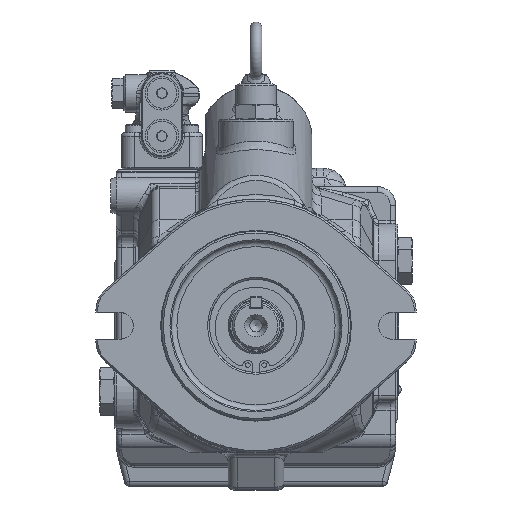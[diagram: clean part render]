
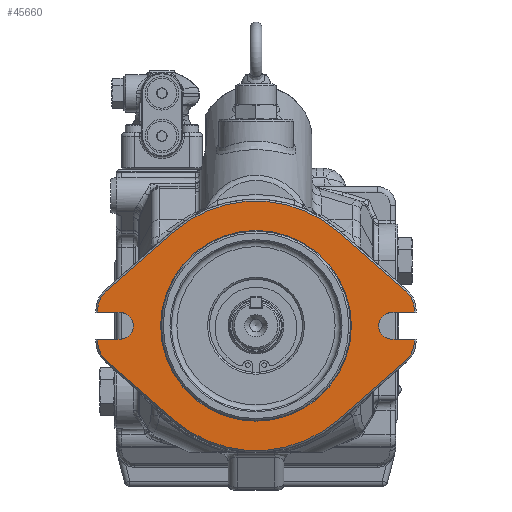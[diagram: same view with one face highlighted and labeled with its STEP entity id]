
A CAD part, top view. The second image highlights one B-rep face of the part: STEP entity #45660.
In plain terms, the highlighted planar face has unit normal (0, 0, 1).
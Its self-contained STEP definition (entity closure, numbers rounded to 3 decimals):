
#4699=FACE_BOUND('',#10778,.T.);
#5748=PLANE('',#49441);
#7954=FACE_OUTER_BOUND('',#10777,.T.);
#10777=EDGE_LOOP('',(#40343,#40344,#40345,#40346,#40347,#40348,#40349,#40350,
#40351,#40352,#40353,#40354,#40355,#40356,#40357,#40358,#40359,#40360,#40361,
#40362));
#10778=EDGE_LOOP('',(#40363));
#14214=LINE('',#86241,#17577);
#14232=LINE('',#86300,#17595);
#14245=LINE('',#86331,#17608);
#14249=LINE('',#86339,#17612);
#14253=LINE('',#86354,#17616);
#14268=LINE('',#86383,#17631);
#14269=LINE('',#86386,#17632);
#14287=LINE('',#86761,#17650);
#14288=LINE('',#86765,#17651);
#14289=LINE('',#86769,#17652);
#14290=LINE('',#86774,#17653);
#14291=LINE('',#86778,#17654);
#17577=VECTOR('',#59291,10.);
#17595=VECTOR('',#59345,10.);
#17608=VECTOR('',#59374,10.);
#17612=VECTOR('',#59380,10.);
#17616=VECTOR('',#59394,10.);
#17631=VECTOR('',#59423,10.);
#17632=VECTOR('',#59426,10.);
#17650=VECTOR('',#59524,10.);
#17651=VECTOR('',#59527,10.);
#17652=VECTOR('',#59530,10.);
#17653=VECTOR('',#59535,10.);
#17654=VECTOR('',#59538,10.);
#19402=CIRCLE('',#49363,7.15);
#19409=CIRCLE('',#49381,7.15);
#19429=CIRCLE('',#49439,51.2);
#19431=CIRCLE('',#49442,14.);
#19432=CIRCLE('',#49443,67.);
#19433=CIRCLE('',#49444,14.);
#19434=CIRCLE('',#49445,14.);
#19435=CIRCLE('',#49446,67.);
#19436=CIRCLE('',#49447,14.);
#22961=VERTEX_POINT('',#86238);
#22962=VERTEX_POINT('',#86240);
#22964=VERTEX_POINT('',#86246);
#22984=VERTEX_POINT('',#86297);
#22985=VERTEX_POINT('',#86299);
#22987=VERTEX_POINT('',#86305);
#22995=VERTEX_POINT('',#86329);
#22998=VERTEX_POINT('',#86337);
#23004=VERTEX_POINT('',#86353);
#23011=VERTEX_POINT('',#86381);
#23012=VERTEX_POINT('',#86385);
#23073=VERTEX_POINT('',#86756);
#23074=VERTEX_POINT('',#86760);
#23075=VERTEX_POINT('',#86762);
#23076=VERTEX_POINT('',#86764);
#23077=VERTEX_POINT('',#86766);
#23078=VERTEX_POINT('',#86768);
#23079=VERTEX_POINT('',#86771);
#23080=VERTEX_POINT('',#86773);
#23081=VERTEX_POINT('',#86775);
#23082=VERTEX_POINT('',#86777);
#28793=EDGE_CURVE('',#22962,#22961,#14214,.T.);
#28797=EDGE_CURVE('',#22961,#22964,#19402,.T.);
#28822=EDGE_CURVE('',#22985,#22984,#14232,.T.);
#28826=EDGE_CURVE('',#22984,#22987,#19409,.T.);
#28838=EDGE_CURVE('',#22987,#22995,#14245,.T.);
#28842=EDGE_CURVE('',#22964,#22998,#14249,.T.);
#28849=EDGE_CURVE('',#22985,#23004,#14253,.T.);
#28864=EDGE_CURVE('',#23011,#22998,#14268,.T.);
#28865=EDGE_CURVE('',#22962,#23012,#14269,.T.);
#28937=EDGE_CURVE('',#23073,#23073,#19429,.T.);
#28939=EDGE_CURVE('',#23074,#22995,#14287,.T.);
#28940=EDGE_CURVE('',#23075,#23074,#19431,.T.);
#28941=EDGE_CURVE('',#23076,#23075,#14288,.T.);
#28942=EDGE_CURVE('',#23077,#23076,#19432,.T.);
#28943=EDGE_CURVE('',#23078,#23077,#14289,.T.);
#28944=EDGE_CURVE('',#23012,#23078,#19433,.T.);
#28945=EDGE_CURVE('',#23079,#23011,#19434,.T.);
#28946=EDGE_CURVE('',#23080,#23079,#14290,.T.);
#28947=EDGE_CURVE('',#23081,#23080,#19435,.T.);
#28948=EDGE_CURVE('',#23082,#23081,#14291,.T.);
#28949=EDGE_CURVE('',#23004,#23082,#19436,.T.);
#40343=ORIENTED_EDGE('',*,*,#28838,.T.);
#40344=ORIENTED_EDGE('',*,*,#28939,.F.);
#40345=ORIENTED_EDGE('',*,*,#28940,.F.);
#40346=ORIENTED_EDGE('',*,*,#28941,.F.);
#40347=ORIENTED_EDGE('',*,*,#28942,.F.);
#40348=ORIENTED_EDGE('',*,*,#28943,.F.);
#40349=ORIENTED_EDGE('',*,*,#28944,.F.);
#40350=ORIENTED_EDGE('',*,*,#28865,.F.);
#40351=ORIENTED_EDGE('',*,*,#28793,.T.);
#40352=ORIENTED_EDGE('',*,*,#28797,.T.);
#40353=ORIENTED_EDGE('',*,*,#28842,.T.);
#40354=ORIENTED_EDGE('',*,*,#28864,.F.);
#40355=ORIENTED_EDGE('',*,*,#28945,.F.);
#40356=ORIENTED_EDGE('',*,*,#28946,.F.);
#40357=ORIENTED_EDGE('',*,*,#28947,.F.);
#40358=ORIENTED_EDGE('',*,*,#28948,.F.);
#40359=ORIENTED_EDGE('',*,*,#28949,.F.);
#40360=ORIENTED_EDGE('',*,*,#28849,.F.);
#40361=ORIENTED_EDGE('',*,*,#28822,.T.);
#40362=ORIENTED_EDGE('',*,*,#28826,.T.);
#40363=ORIENTED_EDGE('',*,*,#28937,.F.);
#45660=ADVANCED_FACE('',(#7954,#4699),#5748,.F.);
#49363=AXIS2_PLACEMENT_3D('',#86248,#59297,#59298);
#49381=AXIS2_PLACEMENT_3D('',#86307,#59351,#59352);
#49439=AXIS2_PLACEMENT_3D('',#86757,#59518,#59519);
#49441=AXIS2_PLACEMENT_3D('',#86759,#59522,#59523);
#49442=AXIS2_PLACEMENT_3D('',#86763,#59525,#59526);
#49443=AXIS2_PLACEMENT_3D('',#86767,#59528,#59529);
#49444=AXIS2_PLACEMENT_3D('',#86770,#59531,#59532);
#49445=AXIS2_PLACEMENT_3D('',#86772,#59533,#59534);
#49446=AXIS2_PLACEMENT_3D('',#86776,#59536,#59537);
#49447=AXIS2_PLACEMENT_3D('',#86779,#59539,#59540);
#59291=DIRECTION('',(1.,0.,0.));
#59297=DIRECTION('center_axis',(0.,0.,-1.));
#59298=DIRECTION('ref_axis',(0.,-1.,0.));
#59345=DIRECTION('',(-1.,0.,0.));
#59351=DIRECTION('center_axis',(0.,0.,-1.));
#59352=DIRECTION('ref_axis',(0.,1.,0.));
#59374=DIRECTION('',(1.,0.,0.));
#59380=DIRECTION('',(-1.,0.,0.));
#59394=DIRECTION('',(0.,-1.,0.));
#59423=DIRECTION('',(0.,1.,0.));
#59426=DIRECTION('',(0.,1.,0.));
#59518=DIRECTION('center_axis',(0.,0.,1.));
#59519=DIRECTION('ref_axis',(0.,-1.,0.));
#59522=DIRECTION('center_axis',(0.,0.,-1.));
#59523=DIRECTION('ref_axis',(0.,1.,0.));
#59524=DIRECTION('',(0.,-1.,0.));
#59525=DIRECTION('center_axis',(0.,0.,-1.));
#59526=DIRECTION('ref_axis',(0.911,0.413,0.));
#59527=DIRECTION('',(0.752,-0.66,0.));
#59528=DIRECTION('center_axis',(0.,0.,-1.));
#59529=DIRECTION('ref_axis',(0.,1.,0.));
#59530=DIRECTION('',(0.752,0.66,0.));
#59531=DIRECTION('center_axis',(0.,0.,-1.));
#59532=DIRECTION('ref_axis',(-0.911,0.413,0.));
#59533=DIRECTION('center_axis',(0.,0.,-1.));
#59534=DIRECTION('ref_axis',(-0.911,-0.413,0.));
#59535=DIRECTION('',(-0.752,0.66,0.));
#59536=DIRECTION('center_axis',(0.,0.,-1.));
#59537=DIRECTION('ref_axis',(0.,-1.,0.));
#59538=DIRECTION('',(-0.752,-0.66,0.));
#59539=DIRECTION('center_axis',(0.,0.,-1.));
#59540=DIRECTION('ref_axis',(0.911,-0.413,0.));
#86238=CARTESIAN_POINT('',(-70.023,-25.002,103.606));
#86240=CARTESIAN_POINT('',(-82.023,-25.002,103.606));
#86241=CARTESIAN_POINT('',(-33.523,-25.002,103.606));
#86246=CARTESIAN_POINT('',(-70.023,-39.302,103.606));
#86248=CARTESIAN_POINT('Origin',(-70.023,-32.152,103.606));
#86297=CARTESIAN_POINT('',(75.977,-39.302,103.606));
#86299=CARTESIAN_POINT('',(87.977,-39.302,103.606));
#86300=CARTESIAN_POINT('',(39.477,-39.302,103.606));
#86305=CARTESIAN_POINT('',(75.977,-25.002,103.606));
#86307=CARTESIAN_POINT('Origin',(75.977,-32.152,103.606));
#86329=CARTESIAN_POINT('',(87.977,-25.002,103.606));
#86331=CARTESIAN_POINT('',(62.675,-25.002,103.606));
#86337=CARTESIAN_POINT('',(-82.023,-39.302,103.606));
#86339=CARTESIAN_POINT('',(-48.826,-39.302,103.606));
#86353=CARTESIAN_POINT('',(87.977,-40.359,103.606));
#86354=CARTESIAN_POINT('',(87.977,24.639,103.606));
#86381=CARTESIAN_POINT('',(-82.023,-40.359,103.606));
#86383=CARTESIAN_POINT('',(-82.023,32.139,103.606));
#86385=CARTESIAN_POINT('',(-82.023,-23.946,103.606));
#86386=CARTESIAN_POINT('',(-82.023,32.139,103.606));
#86756=CARTESIAN_POINT('',(2.977,19.048,103.606));
#86757=CARTESIAN_POINT('Origin',(2.977,-32.152,103.606));
#86759=CARTESIAN_POINT('Origin',(2.977,58.429,103.606));
#86760=CARTESIAN_POINT('',(87.977,-23.946,103.606));
#86761=CARTESIAN_POINT('',(87.977,24.639,103.606));
#86762=CARTESIAN_POINT('',(83.211,-13.423,103.606));
#86763=CARTESIAN_POINT('Origin',(73.977,-23.946,103.606));
#86764=CARTESIAN_POINT('',(47.17,18.206,103.606));
#86765=CARTESIAN_POINT('',(27.443,35.518,103.606));
#86766=CARTESIAN_POINT('',(-41.217,18.206,103.606));
#86767=CARTESIAN_POINT('Origin',(2.977,-32.152,103.606));
#86768=CARTESIAN_POINT('',(-77.258,-13.423,103.606));
#86769=CARTESIAN_POINT('',(-11.203,44.546,103.606));
#86770=CARTESIAN_POINT('Origin',(-68.023,-23.946,103.606));
#86771=CARTESIAN_POINT('',(-77.258,-50.881,103.606));
#86772=CARTESIAN_POINT('Origin',(-68.023,-40.359,103.606));
#86773=CARTESIAN_POINT('',(-41.217,-82.51,103.606));
#86774=CARTESIAN_POINT('',(-81.518,-47.143,103.606));
#86775=CARTESIAN_POINT('',(47.17,-82.51,103.606));
#86776=CARTESIAN_POINT('Origin',(2.977,-32.152,103.606));
#86777=CARTESIAN_POINT('',(83.211,-50.881,103.606));
#86778=CARTESIAN_POINT('',(77.184,-56.171,103.606));
#86779=CARTESIAN_POINT('Origin',(73.977,-40.359,103.606));
